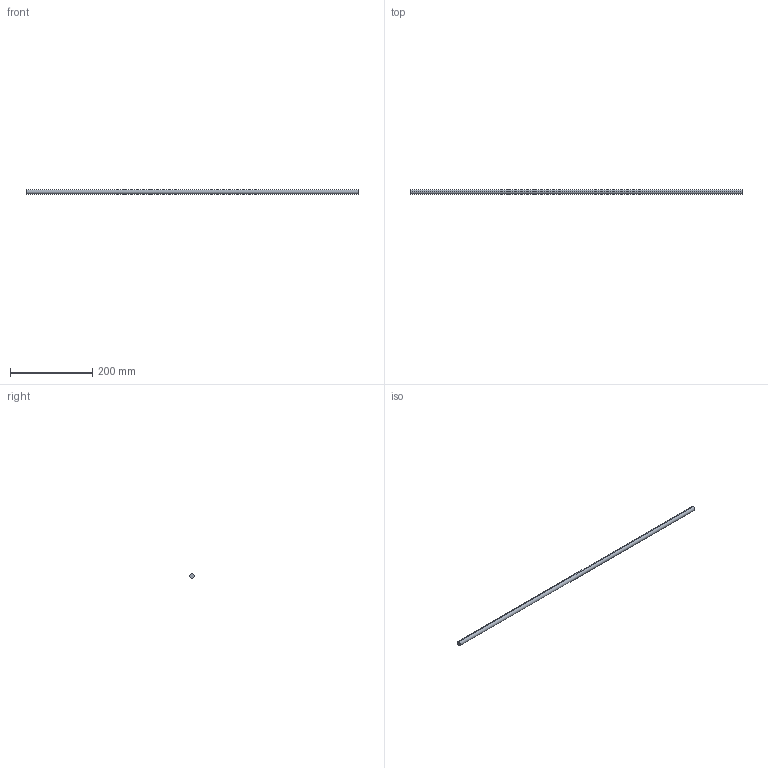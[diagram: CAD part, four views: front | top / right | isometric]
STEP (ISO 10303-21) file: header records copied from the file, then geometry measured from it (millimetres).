
FILE_DESCRIPTION (( 'STEP AP214' ), '1' );
FILE_NAME ('Querreling_Frontblende_Innenlade_KS19_KAB-900.step', '2010-09-22T15:05:36', ( 'grass' ), ( '' ), 'SwSTEP 2.0', 'SolidWorks 2010', '' );
FILE_SCHEMA (( 'AUTOMOTIVE_DESIGN' ));
Length unit declared in the file: millimetre
Products named in the file (1): Querreling_Frontblende_Innenlade_KS19_KAB-900
Bounding box: 809 x 11 x 11 mm (x, y, z)
Volume: 76881.8 mm3; surface area: 28147.1 mm2
Topology: 1 solids, 1 shells, 4 faces, 6 edges, 4 vertices
Faces by surface type: cylinder 2, plane 2
Entity records: 128 total; most frequent: DIRECTION 20, CARTESIAN_POINT 15, ORIENTED_EDGE 12, AXIS2_PLACEMENT_3D 9, EDGE_CURVE 6, CIRCLE 4, FACE_OUTER_BOUND 4, VERTEX_POINT 4
